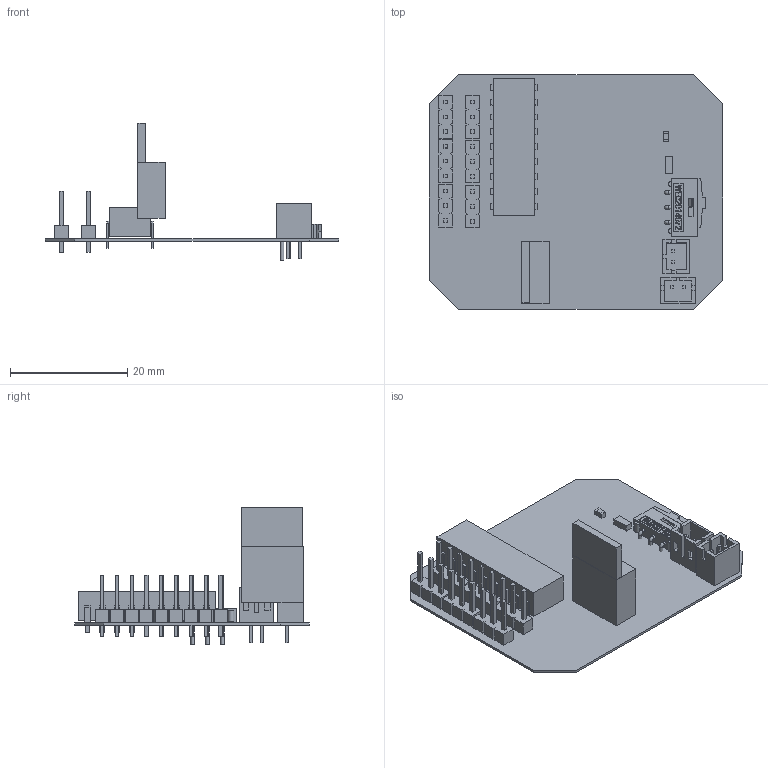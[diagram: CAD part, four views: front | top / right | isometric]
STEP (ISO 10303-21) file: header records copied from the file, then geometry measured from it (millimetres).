
FILE_DESCRIPTION(('Open CASCADE Model'),'2;1');
FILE_NAME('Open CASCADE Shape Model','2016-04-02T23:08:46',('Author'),( 'Open CASCADE'),'Open CASCADE STEP processor 6.5','Open CASCADE 6.5' ,'Unknown');
FILE_SCHEMA(('AUTOMOTIVE_DESIGN { 1 0 10303 214 1 1 1 1 }'));
Length unit declared in the file: millimetre
Products named in the file (38): PCB; Board; *; 1312133904; Extruded; B1; B2B-PH-K-S; GND1; c-5-146285-3-f-3d; GND2; GND3; Rdown; 1336927680; 1336927808; S1; 450302014072; cover; slide; U0; 1312134160; 1312134032; U?; 1336927936; 1336928192; 1336928320; 1336928448; Vout1; Vout2; Vout3; BCharge
Assembly tree (95 placements, depth 4):
  PCB
    Board
    *
      1312133904
        Extruded
    B1
      B2B-PH-K-S
    GND1
      c-5-146285-3-f-3d
    GND2
      c-5-146285-3-f-3d
    GND3
      c-5-146285-3-f-3d
    Rdown
      1336927680
        Extruded
      1336927808  x2
        Extruded
    S1
      450302014072
        cover
        slide
    U0
      1312134160
        Extruded
      1312134032
        Extruded
    U?
      1336927936
        Extruded
      1336928192  x18
        Extruded
      1336928320  x18
        Extruded
      1336928448  x18
        Extruded
    Vout1
      c-5-146285-3-f-3d
    Vout2
      c-5-146285-3-f-3d
    Vout3
      c-5-146285-3-f-3d
    BCharge
      B2B-PH-K-S
Bounding box: 50 x 40 x 23.39 mm (x, y, z)
Volume: 2785.1 mm3; surface area: 7159.4 mm2
Topology: 72 solids, 72 shells, 927 faces, 2148 edges, 1430 vertices
Faces by surface type: plane 895, extrusion 13, cylinder 13, cone 3, torus 3
Full cylindrical faces by diameter (mm): 0.6 x6, 1 x1
Entity records: 23168 total; most frequent: CARTESIAN_POINT 5332, DIRECTION 2701, VECTOR 1798, LINE 1785, ORIENTED_EDGE 1584, PCURVE 1584, DEFINITIONAL_REPRESENTATION 1584, EDGE_CURVE 792
